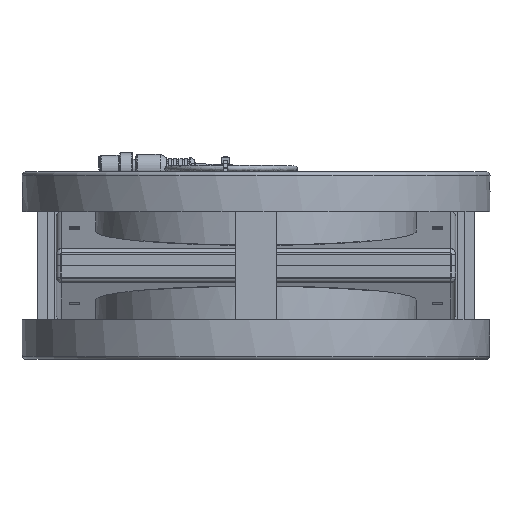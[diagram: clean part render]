
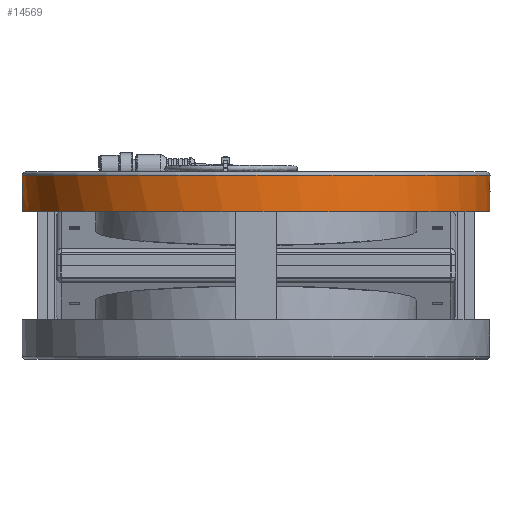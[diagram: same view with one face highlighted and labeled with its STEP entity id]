
A CAD part, front view. The second image highlights one B-rep face of the part: STEP entity #14569.
In plain terms, the highlighted cylindrical face has radius 112.4 mm (diameter 224.8 mm), a full revolution.
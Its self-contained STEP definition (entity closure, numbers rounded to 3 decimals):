
#4442=CIRCLE('',#90119,112.4);
#4443=CIRCLE('',#90122,112.4);
#4444=CIRCLE('',#90124,112.4);
#4445=CIRCLE('',#90127,112.4);
#11736=CYLINDRICAL_SURFACE('',#90129,112.4);
#13419=FACE_BOUND('',#26505,.T.);
#13420=FACE_BOUND('',#26506,.T.);
#13421=FACE_BOUND('',#26507,.T.);
#13422=FACE_BOUND('',#26508,.T.);
#14569=ADVANCED_FACE('',(#13419,#13420,#13421,#13422),#11736,.T.);
#26505=EDGE_LOOP('',(#33447,#33448,#33449));
#26506=EDGE_LOOP('',(#33450,#33451,#33452));
#26507=EDGE_LOOP('',(#33453));
#26508=EDGE_LOOP('',(#33454,#33455));
#31885=ELLIPSE('',#90121,224.8,112.4);
#31886=ELLIPSE('',#90123,224.8,112.4);
#31887=ELLIPSE('',#90125,224.8,112.4);
#31888=ELLIPSE('',#90126,224.8,112.4);
#31889=ELLIPSE('',#90128,112.829,112.4);
#33447=ORIENTED_EDGE('',*,*,#65408,.T.);
#33448=ORIENTED_EDGE('',*,*,#65409,.T.);
#33449=ORIENTED_EDGE('',*,*,#65410,.T.);
#33450=ORIENTED_EDGE('',*,*,#65411,.T.);
#33451=ORIENTED_EDGE('',*,*,#65412,.T.);
#33452=ORIENTED_EDGE('',*,*,#65413,.T.);
#33453=ORIENTED_EDGE('',*,*,#65414,.F.);
#33454=ORIENTED_EDGE('',*,*,#65407,.T.);
#33455=ORIENTED_EDGE('',*,*,#65415,.F.);
#57409=VERTEX_POINT('',#124105);
#57410=VERTEX_POINT('',#124106);
#57411=VERTEX_POINT('',#124110);
#57412=VERTEX_POINT('',#124111);
#57413=VERTEX_POINT('',#124113);
#57414=VERTEX_POINT('',#124116);
#57415=VERTEX_POINT('',#124117);
#57416=VERTEX_POINT('',#124119);
#57417=VERTEX_POINT('',#124122);
#65407=EDGE_CURVE('',#57410,#57409,#4442,.T.);
#65408=EDGE_CURVE('',#57411,#57412,#31885,.T.);
#65409=EDGE_CURVE('',#57412,#57413,#4443,.T.);
#65410=EDGE_CURVE('',#57413,#57411,#31886,.T.);
#65411=EDGE_CURVE('',#57414,#57415,#4444,.T.);
#65412=EDGE_CURVE('',#57415,#57416,#31887,.T.);
#65413=EDGE_CURVE('',#57416,#57414,#31888,.T.);
#65414=EDGE_CURVE('',#57417,#57417,#4445,.T.);
#65415=EDGE_CURVE('',#57410,#57409,#31889,.T.);
#90119=AXIS2_PLACEMENT_3D('',#124107,#99232,#99233);
#90121=AXIS2_PLACEMENT_3D('',#124109,#99236,#99237);
#90122=AXIS2_PLACEMENT_3D('',#124112,#99238,#99239);
#90123=AXIS2_PLACEMENT_3D('',#124114,#99240,#99241);
#90124=AXIS2_PLACEMENT_3D('',#124115,#99242,#99243);
#90125=AXIS2_PLACEMENT_3D('',#124118,#99244,#99245);
#90126=AXIS2_PLACEMENT_3D('',#124120,#99246,#99247);
#90127=AXIS2_PLACEMENT_3D('',#124121,#99248,#99249);
#90128=AXIS2_PLACEMENT_3D('',#124123,#99250,#99251);
#90129=AXIS2_PLACEMENT_3D('',#124124,#99252,#99253);
#99232=DIRECTION('',(-1.,0.,0.));
#99233=DIRECTION('',(0.,0.,1.));
#99236=DIRECTION('',(0.5,0.866,0.));
#99237=DIRECTION('',(-0.866,0.5,0.));
#99238=DIRECTION('',(-1.,0.,0.));
#99239=DIRECTION('',(0.,0.,1.));
#99240=DIRECTION('',(0.5,-0.866,0.));
#99241=DIRECTION('',(-0.866,-0.5,0.));
#99242=DIRECTION('',(-1.,0.,0.));
#99243=DIRECTION('',(0.,0.,1.));
#99244=DIRECTION('',(0.5,0.866,0.));
#99245=DIRECTION('',(-0.866,0.5,0.));
#99246=DIRECTION('',(0.5,-0.866,0.));
#99247=DIRECTION('',(-0.866,-0.5,0.));
#99248=DIRECTION('',(-1.,0.,0.));
#99249=DIRECTION('',(0.,0.,1.));
#99250=DIRECTION('',(0.996,0.087,0.));
#99251=DIRECTION('',(-0.087,0.996,0.));
#99252=DIRECTION('',(-1.,0.,0.));
#99253=DIRECTION('',(0.,0.,1.));
#124105=CARTESIAN_POINT('',(-26.,108.597,28.991));
#124106=CARTESIAN_POINT('',(-26.,108.597,-28.991));
#124107=CARTESIAN_POINT('',(-26.,0.,0.));
#124109=CARTESIAN_POINT('',(-35.5,0.,0.));
#124110=CARTESIAN_POINT('',(-35.5,0.,-112.4));
#124111=CARTESIAN_POINT('',(-40.,2.598,-112.37));
#124112=CARTESIAN_POINT('',(-40.,0.,0.));
#124113=CARTESIAN_POINT('',(-40.,-2.598,-112.37));
#124114=CARTESIAN_POINT('',(-35.5,0.,0.));
#124115=CARTESIAN_POINT('',(-40.,0.,0.));
#124116=CARTESIAN_POINT('',(-40.,-2.598,112.37));
#124117=CARTESIAN_POINT('',(-40.,2.598,112.37));
#124118=CARTESIAN_POINT('',(-35.5,0.,0.));
#124119=CARTESIAN_POINT('',(-35.5,0.,112.4));
#124120=CARTESIAN_POINT('',(-35.5,0.,0.));
#124121=CARTESIAN_POINT('',(-43.5,0.,0.));
#124122=CARTESIAN_POINT('',(-43.5,0.,112.4));
#124123=CARTESIAN_POINT('',(-16.499,0.,0.));
#124124=CARTESIAN_POINT('',(-45.,0.,0.));
